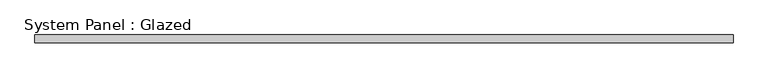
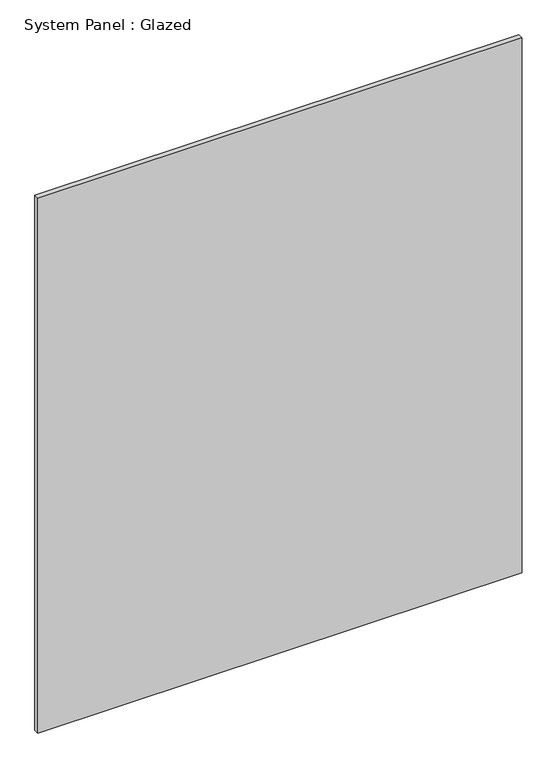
"""IFC4 building model written with IfcOpenShell, lengths in millimetres: plate geometry, System Panel : Glazed."""

from ifc_helpers import new_model, si_unit, origin, origin_with_axes, place, context, project, spatial, polyline, outline, extrude, source, transform, mapped, element, save


def system_panel_glazed_f666e3da(model_context):
    return source(origin(), model_context, "Body", "SweptSolid", [
        extrude(outline(polyline([(1153.3070958, 19.05), (-1153.3070958, 19.05), (-1153.3070958, 44.45), (1153.3070958, 44.45), (1153.3070958, 19.05)])), origin_with_axes(), (0.0, 0.0, 1.0), 2692.4),
    ])


if __name__ == "__main__":
    model = new_model("IFC4")
    model_context = context("Model", 3, world=origin())
    ifc_project = project(units=[si_unit("LENGTHUNIT", "METRE", prefix="MILLI")], contexts=[model_context])
    site = spatial("IfcSite", under=ifc_project)
    building = spatial("IfcBuilding", under=site)
    placement = place(None, origin())
    system_panel_glazed_shape = system_panel_glazed_f666e3da(model_context)
    element("IfcPlate", 1, ObjectType="System Panel : Glazed", at=placement, inside=building, context=model_context, shape_type="MappedRepresentation", body=[
        mapped(system_panel_glazed_shape, transform((0.0, 0.0, 0.0), x_axis=(1.0, 0.0, 0.0), y_axis=(0.0, 1.0, 0.0), z_axis=(0.0, 0.0, 1.0))),
    ])
    save(model, "model.ifc")
